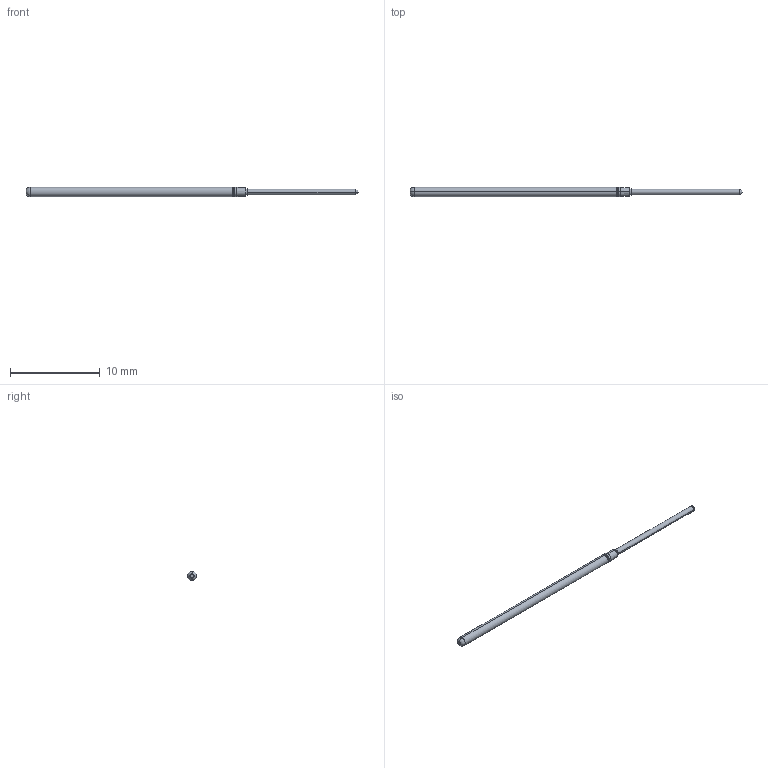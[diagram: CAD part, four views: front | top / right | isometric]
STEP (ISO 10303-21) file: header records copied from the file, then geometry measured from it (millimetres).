
FILE_DESCRIPTION (( 'STEP AP203' ), '1' );
FILE_NAME ('101348-003-922 (REST).STEP', '2022-11-24T08:45:21', ( '' ), ( '' ), 'SwSTEP 2.0', 'SolidWorks 2022', '' );
FILE_SCHEMA (( 'CONFIG_CONTROL_DESIGN' ));
Length unit declared in the file: inch
Products named in the file (1): 101348-003-922 (REST)
Bounding box: 37.08 x 1.02 x 1.02 mm (x, y, z)
Volume: 23.9 mm3; surface area: 104.4 mm2
Topology: 1 solids, 1 shells, 25 faces, 52 edges, 29 vertices
Faces by surface type: cylinder 8, torus 6, cone 6, plane 3, sphere 2
Entity records: 715 total; most frequent: DIRECTION 134, CARTESIAN_POINT 101, ORIENTED_EDGE 96, AXIS2_PLACEMENT_3D 60, EDGE_CURVE 48, CIRCLE 34, VERTEX_POINT 27, EDGE_LOOP 27
